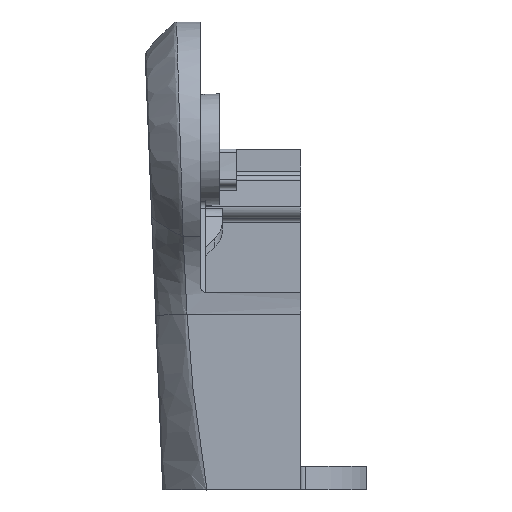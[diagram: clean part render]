
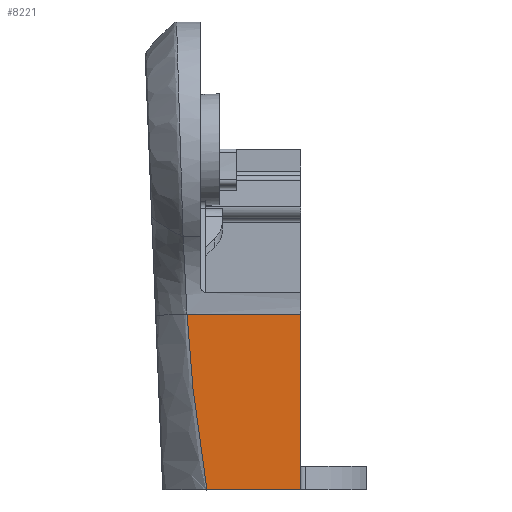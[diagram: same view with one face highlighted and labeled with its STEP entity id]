
A CAD part, front view. The second image highlights one B-rep face of the part: STEP entity #8221.
In plain terms, the highlighted planar face has unit normal (0, -1, 0).
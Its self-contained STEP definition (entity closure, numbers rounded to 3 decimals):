
#25=DIRECTION('',(1.,0.,0.));
#26=VECTOR('',#25,29.928);
#27=CARTESIAN_POINT('',(191.072,-24.65,-40.5));
#28=LINE('',#27,#26);
#851=CARTESIAN_POINT('',(191.072,-24.65,-40.5));
#852=CARTESIAN_POINT('',(188.294,-24.65,-21.859));
#853=CARTESIAN_POINT('',(185.507,-24.65,-3.214));
#854=CARTESIAN_POINT('',(184.753,-24.65,15.509));
#856=DIRECTION('',(0.,0.,-1.));
#857=VECTOR('',#856,56.009);
#858=CARTESIAN_POINT('',(221.,-24.65,15.509));
#859=LINE('',#858,#857);
#860=CARTESIAN_POINT('',(191.072,-24.65,-40.5));
#3515=DIRECTION('',(-1.,0.,0.));
#3516=VECTOR('',#3515,36.247);
#3517=CARTESIAN_POINT('',(221.,-24.65,15.509));
#3518=LINE('',#3517,#3516);
#6398=VERTEX_POINT('',#860);
#6399=CARTESIAN_POINT('',(221.,-24.65,-40.5));
#6400=VERTEX_POINT('',#6399);
#6779=CARTESIAN_POINT('',(221.,-24.65,15.509));
#6780=VERTEX_POINT('',#6779);
#6803=VERTEX_POINT('',#854);
#8208=CARTESIAN_POINT('',(-865.599,-24.65,
-3.957));
#8209=DIRECTION('',(0.,1.,0.));
#8210=DIRECTION('',(0.,0.,1.));
#8211=AXIS2_PLACEMENT_3D('',#8208,#8209,#8210);
#8212=PLANE('',#8211);
#8214=ORIENTED_EDGE('',*,*,#8213,.T.);
#8216=ORIENTED_EDGE('',*,*,#8215,.F.);
#8217=ORIENTED_EDGE('',*,*,#8153,.T.);
#8218=ORIENTED_EDGE('',*,*,#7469,.F.);
#8219=EDGE_LOOP('',(#8214,#8216,#8217,#8218));
#8220=FACE_OUTER_BOUND('',#8219,.F.);
#8221=ADVANCED_FACE('',(#8220),#8212,.F.);
#855=B_SPLINE_CURVE_WITH_KNOTS('',3,(#851,#852,#853,#854),.UNSPECIFIED.,.F.,.F.,
(4,4),(0.,1.),.UNSPECIFIED.);
#7469=EDGE_CURVE('',#6398,#6400,#28,.T.);
#8153=EDGE_CURVE('',#6780,#6400,#859,.T.);
#8213=EDGE_CURVE('',#6398,#6803,#855,.T.);
#8215=EDGE_CURVE('',#6780,#6803,#3518,.T.);
